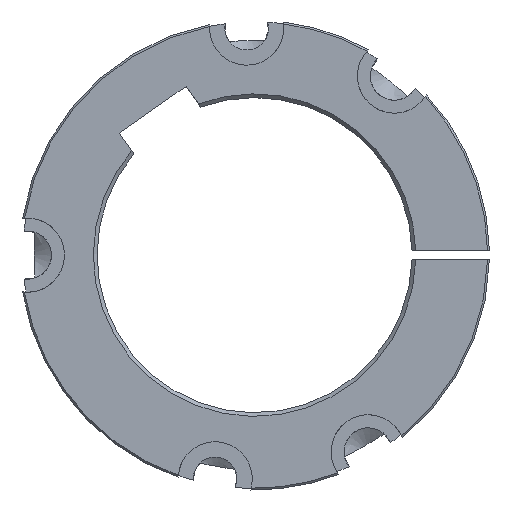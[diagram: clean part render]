
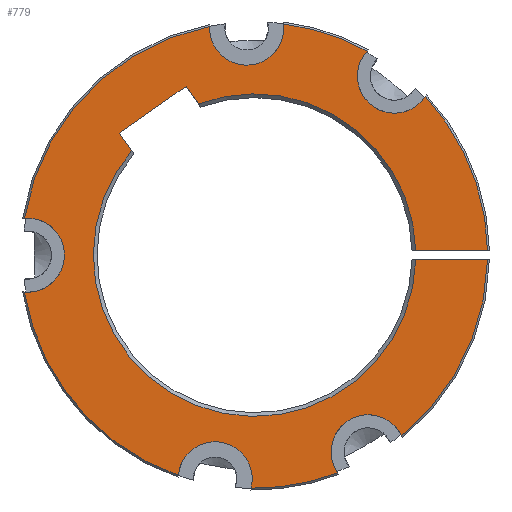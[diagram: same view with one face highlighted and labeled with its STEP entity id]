
A CAD part, left-side view. The second image highlights one B-rep face of the part: STEP entity #779.
In plain terms, the highlighted planar face has unit normal (-1, 0, 0).
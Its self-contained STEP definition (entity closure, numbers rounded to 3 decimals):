
#19=LINE('',#1500,#45);
#21=LINE('',#1517,#47);
#28=LINE('',#1535,#54);
#36=LINE('',#1550,#62);
#40=LINE('',#1562,#66);
#45=VECTOR('',#1032,5.804);
#47=VECTOR('',#1036,5.804);
#54=VECTOR('',#1045,19.366);
#62=VECTOR('',#1055,19.366);
#66=VECTOR('',#1067,21.98);
#97=PLANE('',#874);
#134=FACE_OUTER_BOUND('',#177,.T.);
#177=EDGE_LOOP('',(#673,#674,#675,#676,#677,#678,#679,#680,#681,#682,#683,
#684,#685,#686,#687,#688,#689,#690,#691,#692));
#190=CIRCLE('',#797,10.);
#196=CIRCLE('',#808,10.);
#197=CIRCLE('',#810,62.86);
#211=CIRCLE('',#826,62.86);
#215=CIRCLE('',#833,10.);
#219=CIRCLE('',#841,10.);
#223=CIRCLE('',#849,10.);
#224=CIRCLE('',#852,62.86);
#225=CIRCLE('',#854,62.86);
#226=CIRCLE('',#856,62.86);
#228=CIRCLE('',#863,0.01);
#230=CIRCLE('',#867,0.01);
#235=CIRCLE('',#875,62.86);
#236=CIRCLE('',#876,43.5);
#237=CIRCLE('',#877,43.5);
#283=VERTEX_POINT('',#1144);
#284=VERTEX_POINT('',#1149);
#293=VERTEX_POINT('',#1223);
#294=VERTEX_POINT('',#1228);
#296=VERTEX_POINT('',#1240);
#325=VERTEX_POINT('',#1433);
#326=VERTEX_POINT('',#1445);
#327=VERTEX_POINT('',#1458);
#328=VERTEX_POINT('',#1471);
#329=VERTEX_POINT('',#1476);
#330=VERTEX_POINT('',#1484);
#331=VERTEX_POINT('',#1488);
#334=VERTEX_POINT('',#1497);
#335=VERTEX_POINT('',#1499);
#338=VERTEX_POINT('',#1511);
#340=VERTEX_POINT('',#1516);
#347=VERTEX_POINT('',#1533);
#350=VERTEX_POINT('',#1541);
#355=VERTEX_POINT('',#1554);
#357=VERTEX_POINT('',#1560);
#366=EDGE_CURVE('',#284,#283,#190,.T.);
#381=EDGE_CURVE('',#294,#293,#196,.T.);
#384=EDGE_CURVE('',#284,#296,#197,.T.);
#416=EDGE_CURVE('',#294,#325,#211,.T.);
#421=EDGE_CURVE('',#326,#296,#215,.T.);
#426=EDGE_CURVE('',#327,#325,#219,.T.);
#432=EDGE_CURVE('',#329,#328,#223,.T.);
#434=EDGE_CURVE('',#326,#330,#224,.T.);
#437=EDGE_CURVE('',#331,#328,#225,.T.);
#438=EDGE_CURVE('',#329,#293,#226,.T.);
#441=EDGE_CURVE('',#335,#334,#19,.T.);
#446=EDGE_CURVE('',#340,#338,#21,.T.);
#454=EDGE_CURVE('',#331,#347,#28,.T.);
#462=EDGE_CURVE('',#350,#330,#36,.T.);
#465=EDGE_CURVE('',#334,#355,#228,.T.);
#468=EDGE_CURVE('',#355,#357,#40,.T.);
#470=EDGE_CURVE('',#357,#340,#230,.T.);
#475=EDGE_CURVE('',#327,#283,#235,.T.);
#476=EDGE_CURVE('',#347,#335,#236,.T.);
#477=EDGE_CURVE('',#338,#350,#237,.T.);
#673=ORIENTED_EDGE('',*,*,#366,.T.);
#674=ORIENTED_EDGE('',*,*,#475,.F.);
#675=ORIENTED_EDGE('',*,*,#426,.T.);
#676=ORIENTED_EDGE('',*,*,#416,.F.);
#677=ORIENTED_EDGE('',*,*,#381,.T.);
#678=ORIENTED_EDGE('',*,*,#438,.F.);
#679=ORIENTED_EDGE('',*,*,#432,.T.);
#680=ORIENTED_EDGE('',*,*,#437,.F.);
#681=ORIENTED_EDGE('',*,*,#454,.T.);
#682=ORIENTED_EDGE('',*,*,#476,.T.);
#683=ORIENTED_EDGE('',*,*,#441,.T.);
#684=ORIENTED_EDGE('',*,*,#465,.T.);
#685=ORIENTED_EDGE('',*,*,#468,.T.);
#686=ORIENTED_EDGE('',*,*,#470,.T.);
#687=ORIENTED_EDGE('',*,*,#446,.T.);
#688=ORIENTED_EDGE('',*,*,#477,.T.);
#689=ORIENTED_EDGE('',*,*,#462,.T.);
#690=ORIENTED_EDGE('',*,*,#434,.F.);
#691=ORIENTED_EDGE('',*,*,#421,.T.);
#692=ORIENTED_EDGE('',*,*,#384,.F.);
#779=ADVANCED_FACE('',(#134),#97,.T.);
#797=AXIS2_PLACEMENT_3D('',#1150,#906,#907);
#808=AXIS2_PLACEMENT_3D('',#1229,#928,#929);
#810=AXIS2_PLACEMENT_3D('',#1241,#932,#933);
#826=AXIS2_PLACEMENT_3D('',#1434,#964,#965);
#833=AXIS2_PLACEMENT_3D('',#1446,#978,#979);
#841=AXIS2_PLACEMENT_3D('',#1459,#994,#995);
#849=AXIS2_PLACEMENT_3D('',#1477,#1010,#1011);
#852=AXIS2_PLACEMENT_3D('',#1485,#1016,#1017);
#854=AXIS2_PLACEMENT_3D('',#1490,#1022,#1023);
#856=AXIS2_PLACEMENT_3D('',#1492,#1026,#1027);
#863=AXIS2_PLACEMENT_3D('',#1556,#1061,#1062);
#867=AXIS2_PLACEMENT_3D('',#1565,#1072,#1073);
#874=AXIS2_PLACEMENT_3D('',#1572,#1086,#1087);
#875=AXIS2_PLACEMENT_3D('',#1573,#1088,#1089);
#876=AXIS2_PLACEMENT_3D('',#1574,#1090,#1091);
#877=AXIS2_PLACEMENT_3D('',#1575,#1092,#1093);
#906=DIRECTION('center_axis',(1.,0.,0.));
#907=DIRECTION('ref_axis',(0.,0.,1.));
#928=DIRECTION('center_axis',(1.,0.,0.));
#929=DIRECTION('ref_axis',(0.,0.,1.));
#932=DIRECTION('center_axis',(1.,0.,0.));
#933=DIRECTION('ref_axis',(0.,0.,-1.));
#964=DIRECTION('center_axis',(1.,0.,0.));
#965=DIRECTION('ref_axis',(0.,0.,-1.));
#978=DIRECTION('center_axis',(1.,0.,0.));
#979=DIRECTION('ref_axis',(0.,0.,1.));
#994=DIRECTION('center_axis',(1.,0.,0.));
#995=DIRECTION('ref_axis',(0.,0.,1.));
#1010=DIRECTION('center_axis',(1.,0.,0.));
#1011=DIRECTION('ref_axis',(0.,0.,1.));
#1016=DIRECTION('center_axis',(1.,0.,0.));
#1017=DIRECTION('ref_axis',(0.,0.,-1.));
#1022=DIRECTION('center_axis',(1.,0.,0.));
#1023=DIRECTION('ref_axis',(0.,0.,-1.));
#1026=DIRECTION('center_axis',(1.,0.,0.));
#1027=DIRECTION('ref_axis',(0.,0.,-1.));
#1032=DIRECTION('',(0.,0.574,0.819));
#1036=DIRECTION('',(0.,-0.574,-0.819));
#1045=DIRECTION('',(0.,1.,0.));
#1055=DIRECTION('',(0.,-1.,0.));
#1061=DIRECTION('center_axis',(1.,0.,0.));
#1062=DIRECTION('ref_axis',(0.,-0.574,-0.819));
#1067=DIRECTION('',(0.,-0.819,0.574));
#1072=DIRECTION('center_axis',(1.,0.,0.));
#1073=DIRECTION('ref_axis',(0.,0.819,-0.574));
#1086=DIRECTION('center_axis',(-1.,0.,0.));
#1087=DIRECTION('ref_axis',(0.,0.,1.));
#1088=DIRECTION('center_axis',(1.,0.,0.));
#1089=DIRECTION('ref_axis',(0.,0.,-1.));
#1090=DIRECTION('center_axis',(1.,0.,0.));
#1091=DIRECTION('ref_axis',(0.,0.,-1.));
#1092=DIRECTION('center_axis',(1.,0.,0.));
#1093=DIRECTION('ref_axis',(0.,0.,-1.));
#1144=CARTESIAN_POINT('',(-7.222,61.672,61.679));
#1149=CARTESIAN_POINT('',(-7.222,41.746,62.375));
#1150=CARTESIAN_POINT('Origin',(-7.222,51.681,61.24));
#1223=CARTESIAN_POINT('',(-7.222,50.503,-62.853));
#1228=CARTESIAN_POINT('',(-7.222,70.138,-59.391));
#1229=CARTESIAN_POINT('Origin',(-7.222,60.184,-60.347));
#1240=CARTESIAN_POINT('',(-7.222,19.188,55.045));
#1241=CARTESIAN_POINT('Origin',(-7.222,49.543,0.));
#1433=CARTESIAN_POINT('',(-7.222,111.607,-9.969));
#1434=CARTESIAN_POINT('Origin',(-7.222,49.543,0.));
#1445=CARTESIAN_POINT('',(-7.222,3.476,42.77));
#1446=CARTESIAN_POINT('Origin',(-7.222,11.817,48.287));
#1458=CARTESIAN_POINT('',(-7.222,111.607,9.969));
#1459=CARTESIAN_POINT('Origin',(-7.222,110.82,0.));
#1471=CARTESIAN_POINT('',(-7.222,9.877,-48.765));
#1476=CARTESIAN_POINT('',(-7.222,27.144,-58.734));
#1477=CARTESIAN_POINT('Origin',(-7.222,18.904,-53.068));
#1484=CARTESIAN_POINT('',(-7.222,-13.305,1.25));
#1485=CARTESIAN_POINT('Origin',(-7.222,49.543,0.));
#1488=CARTESIAN_POINT('',(-7.222,-13.305,-1.25));
#1490=CARTESIAN_POINT('Origin',(-7.222,49.543,0.));
#1492=CARTESIAN_POINT('Origin',(-7.222,49.543,0.));
#1497=CARTESIAN_POINT('',(-7.222,86.022,32.92));
#1499=CARTESIAN_POINT('',(-7.222,82.693,28.166));
#1500=CARTESIAN_POINT('',(-7.222,80.815,25.484));
#1511=CARTESIAN_POINT('',(-7.222,64.672,40.784));
#1516=CARTESIAN_POINT('',(-7.222,68.001,45.539));
#1517=CARTESIAN_POINT('',(-7.222,62.646,37.89));
#1533=CARTESIAN_POINT('',(-7.222,6.061,-1.25));
#1535=CARTESIAN_POINT('',(-7.222,59.732,-1.25));
#1541=CARTESIAN_POINT('',(-7.222,6.061,1.25));
#1550=CARTESIAN_POINT('',(-7.222,59.482,1.25));
#1554=CARTESIAN_POINT('',(-7.222,86.02,32.934));
#1556=CARTESIAN_POINT('Origin',(-7.222,86.014,32.926));
#1560=CARTESIAN_POINT('',(-7.222,68.015,45.541));
#1562=CARTESIAN_POINT('',(-7.222,93.606,27.622));
#1565=CARTESIAN_POINT('Origin',(-7.222,68.009,45.533));
#1572=CARTESIAN_POINT('Origin',(-7.222,112.403,0.));
#1573=CARTESIAN_POINT('Origin',(-7.222,49.543,0.));
#1574=CARTESIAN_POINT('Origin',(-7.222,49.543,0.));
#1575=CARTESIAN_POINT('Origin',(-7.222,49.543,0.));
